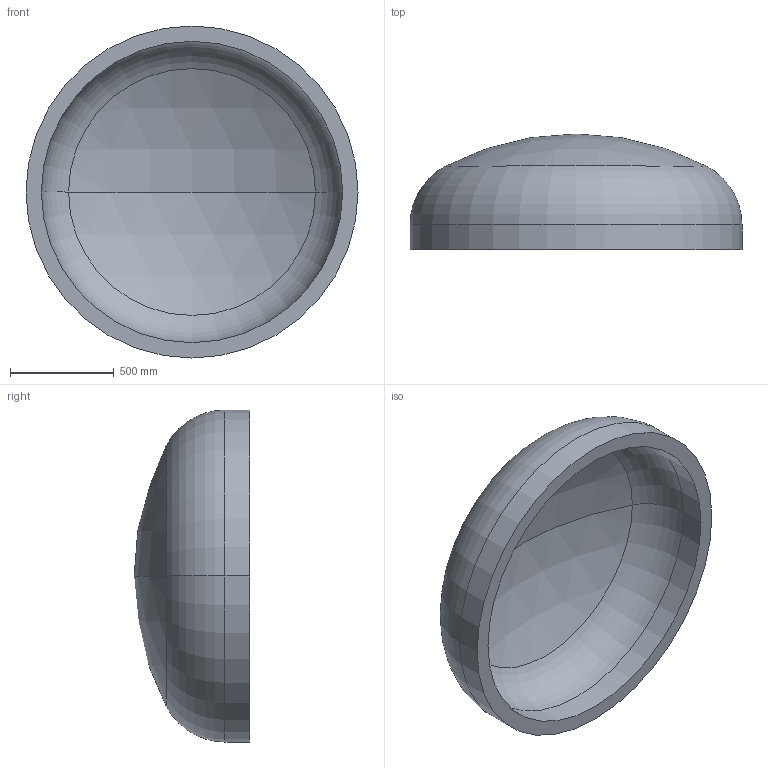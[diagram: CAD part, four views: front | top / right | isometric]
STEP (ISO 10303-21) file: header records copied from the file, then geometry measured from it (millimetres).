
FILE_DESCRIPTION (( 'STEP AP203' ), '1' );
FILE_NAME ('DIN 28013 Korbbogenform_-_Boden DIN 28013 - 1600 x 120 - I - s=74.step', '2016-07-01T11:24:27', ( '' ), ( '' ), 'SwSTEP 2.0', 'SolidWorks 2013', '' );
FILE_SCHEMA (( 'CONFIG_CONTROL_DESIGN' ));
Length unit declared in the file: millimetre
Products named in the file (1): DIN 28013 Korbbogenform_-_Boden DIN 28013 - 1600 x 120 - I - s=74
Bounding box: 1600 x 557.56 x 1600 mm (x, y, z)
Volume: 236486519.5 mm3; surface area: 6757756 mm2
Topology: 1 solids, 1 shells, 13 faces, 24 edges, 14 vertices
Faces by surface type: torus 4, cylinder 4, sphere 4, plane 1
Entity records: 407 total; most frequent: DIRECTION 72, CARTESIAN_POINT 52, ORIENTED_EDGE 48, AXIS2_PLACEMENT_3D 34, EDGE_CURVE 24, CIRCLE 20, EDGE_LOOP 14, VERTEX_POINT 14
